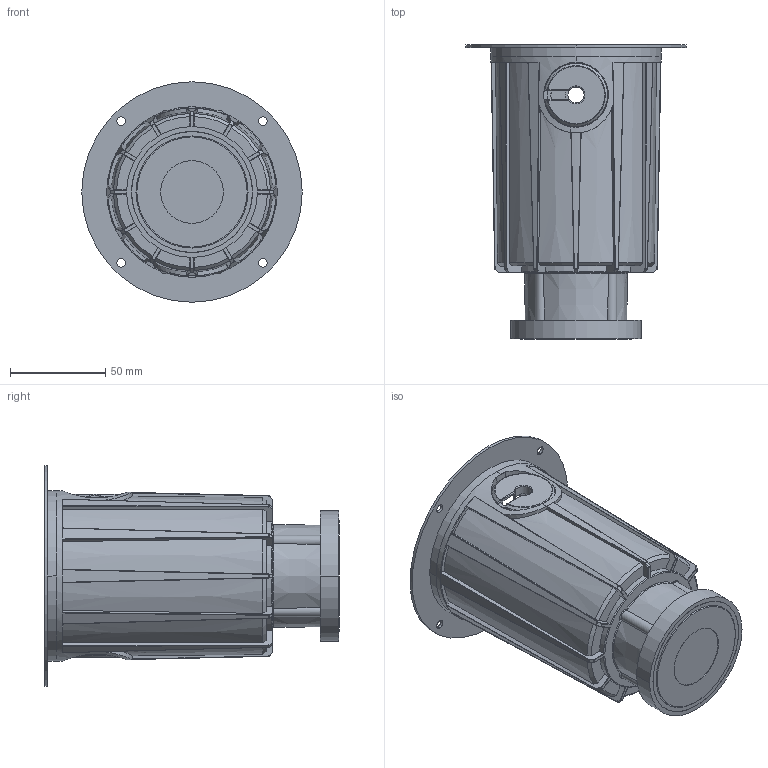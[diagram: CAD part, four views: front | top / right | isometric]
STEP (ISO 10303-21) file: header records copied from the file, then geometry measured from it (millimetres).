
FILE_DESCRIPTION((''),'2;1');
FILE_NAME('2CCR_ASM_36_ASM','2024-11-19T',('C028'),(''),'CREO PARAMETRIC BY PTC INC, 2014190','CREO PARAMETRIC BY PTC INC, 2014190','');
FILE_SCHEMA(('CONFIG_CONTROL_DESIGN'));
Products named in the file (24): 2CCR-DT_38; D1S-H_18_37; 2CCR-BL_36; 2CCR-YMTGDQ_39; Y-D5G55R2R55DM_32_45; 2CCR-KH_37; 2CCR-MZH_40; DZ_3_37; 2CCR-MZH_ASM_37_ASM; Y_2_37; SS1_1_37; SS2_1_37; SS3_1_37; M12-CU_ASM_1_ASM_37_ASM; M12_ASM_37_ASM; 2CCR-FSD_37; M3-BT_37; 2DF-HG_37; BAN; HOLDER-3522-A0-1313_1; COB-10_1_1; B71; 05024A-59535_1_ASM_1_ASM; 2CCR_ASM_36_ASM
Assembly tree (26 placements, depth 4):
  2CCR_ASM_36_ASM
    2CCR-DT_38
    D1S-H_18_37
    2CCR-BL_36
    2CCR-YMTGDQ_39
    Y-D5G55R2R55DM_32_45
    2CCR-KH_37  x2
    2CCR-MZH_ASM_37_ASM
      2CCR-MZH_40
      DZ_3_37
    Y_2_37  x2
    M12_ASM_37_ASM
      M12-CU_ASM_1_ASM_37_ASM
        SS1_1_37
        SS2_1_37
        SS3_1_37
    2CCR-FSD_37
    M3-BT_37  x2
    2DF-HG_37
    BAN
    05024A-59535_1_ASM_1_ASM
      HOLDER-3522-A0-1313_1
      COB-10_1_1
      B71
Bounding box: 116 x 155.1 x 116 mm (x, y, z)
Volume: 237796.7 mm3; surface area: 184809.6 mm2
Topology: 22 solids, 22 shells, 1750 faces, 5040 edges, 3368 vertices
Faces by surface type: plane 759, cylinder 564, cone 173, torus 140, bspline 93, sphere 12, extrusion 9
Entity records: 69626 total; most frequent: CARTESIAN_POINT 27542, ORIENTED_EDGE 9236, DIRECTION 8190, EDGE_CURVE 4618, VERTEX_POINT 3092, AXIS2_PLACEMENT_3D 2980, VECTOR 2230, LINE 2221
